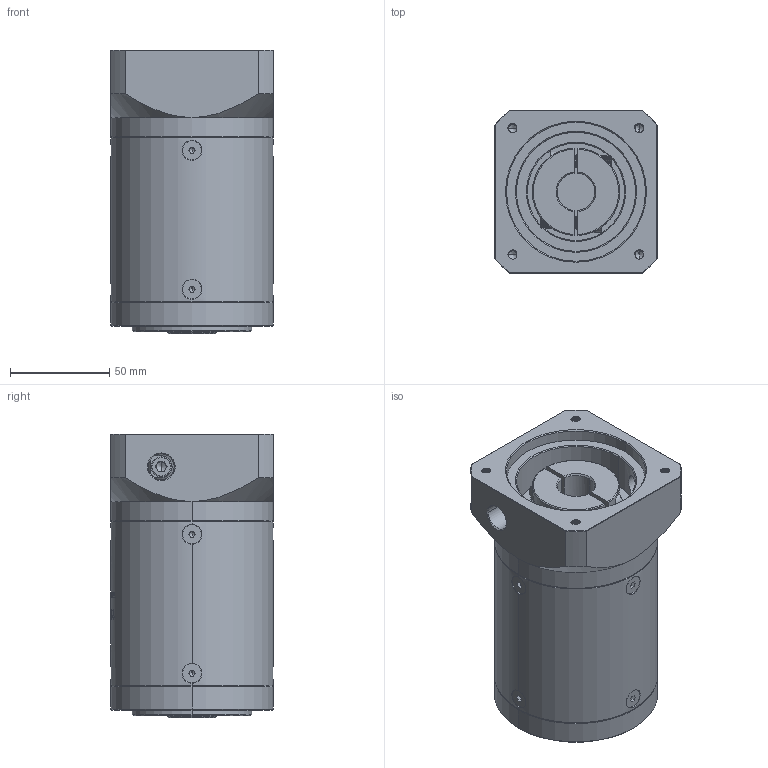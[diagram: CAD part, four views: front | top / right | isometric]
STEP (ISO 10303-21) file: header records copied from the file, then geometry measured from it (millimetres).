
FILE_DESCRIPTION (( 'STEP AP214' ), '1' );
FILE_NAME ('ZE80-K15-L3-19-70-90-M5.step', '2022-05-08T05:58:45', ( '' ), ( 'Microsoft' ), 'SwSTEP 2.0', 'SolidWorks 2016', '' );
FILE_SCHEMA (( 'AUTOMOTIVE_DESIGN' ));
Length unit declared in the file: millimetre
Products named in the file (1): ZE80-K15-L3-19-70-90-M5
Bounding box: 82 x 82 x 143 mm (x, y, z)
Volume: 694938.4 mm3; surface area: 91085.9 mm2
Topology: 13 solids, 13 shells, 2008 faces, 5240 edges, 3319 vertices
Faces by surface type: plane 879, cylinder 473, bspline 322, cone 317, torus 17
Entity records: 112092 total; most frequent: CARTESIAN_POINT 44853, ORIENTED_EDGE 10408, DIRECTION 8023, EDGE_CURVE 5204, VERTEX_POINT 3319, VECTOR 2807, LINE 2807, AXIS2_PLACEMENT_3D 2608
